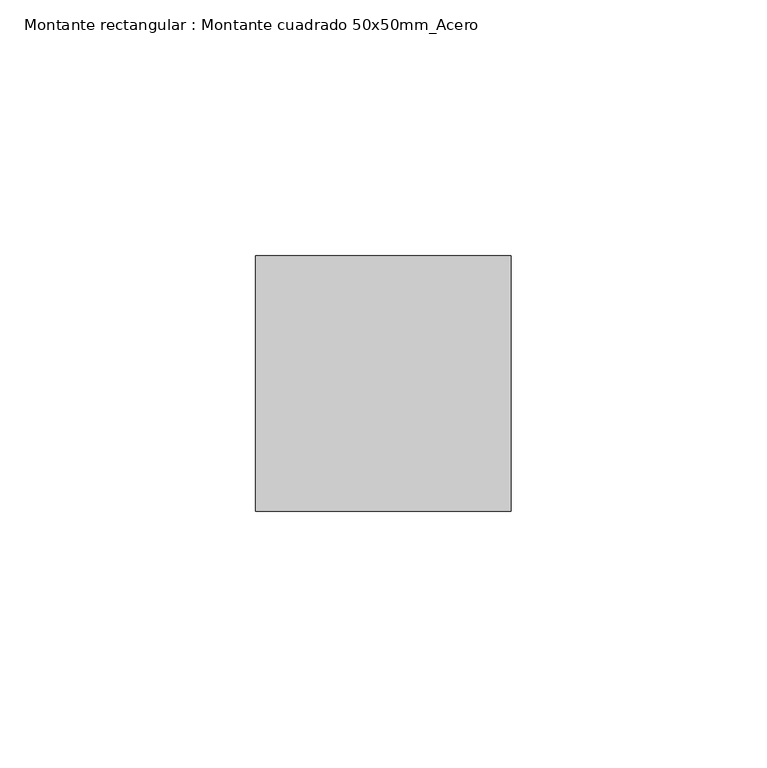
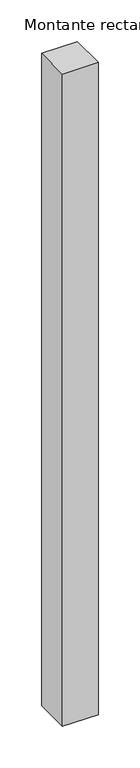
"""IFC4 building model written with IfcOpenShell, lengths in millimetres: member geometry, Montante rectangular : Montante cuadrado 50x50mm_Acero."""

from ifc_helpers import new_model, si_unit, frame, origin, place, context, project, spatial, polyline, outline, extrude, source, transform, mapped, element, save


def montante_rectangular_montante_cuadrado_50x50mm_acero_1024d89c(model_context):
    return source(origin(), model_context, "Body", "SweptSolid", [
        extrude(outline(polyline([(-50.0, 0.0), (-50.0, 50.0), (0.0, 50.0), (0.0, 0.0), (-50.0, 0.0)])), frame((0.0, 0.0, -959.5380426), z_axis=(0.0, 0.0, 1.0), x_axis=(1.0, 0.0, 0.0)), (0.0, 0.0, 1.0), 959.5380426),
    ])


if __name__ == "__main__":
    model = new_model("IFC4")
    model_context = context("Model", 3, world=origin())
    ifc_project = project(units=[si_unit("LENGTHUNIT", "METRE", prefix="MILLI")], contexts=[model_context])
    site = spatial("IfcSite", under=ifc_project)
    building = spatial("IfcBuilding", under=site)
    placement = place(None, origin())
    montante_rectangular_montante_cuadrado_50x50mm_acero_shape = montante_rectangular_montante_cuadrado_50x50mm_acero_1024d89c(model_context)
    element("IfcMember", 1, ObjectType="Montante rectangular : Montante cuadrado 50x50mm_Acero", at=placement, inside=building, context=model_context, shape_type="MappedRepresentation", body=[
        mapped(montante_rectangular_montante_cuadrado_50x50mm_acero_shape, transform((0.0, 0.0, 0.0), x_axis=(1.0, 0.0, 0.0), y_axis=(0.0, 1.0, 0.0), z_axis=(0.0, 0.0, 1.0))),
    ])
    save(model, "model.ifc")
